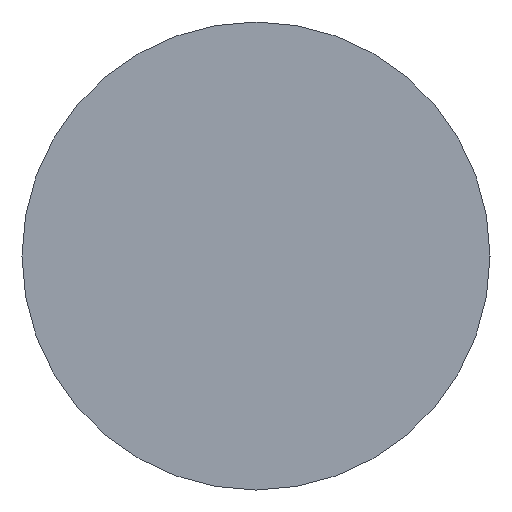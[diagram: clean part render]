
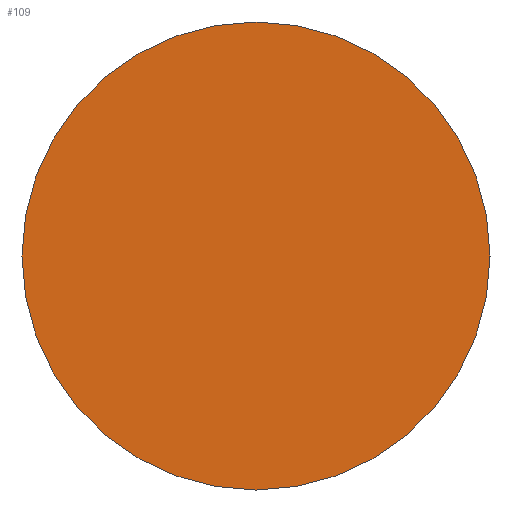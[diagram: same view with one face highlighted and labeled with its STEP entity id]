
A CAD part, left-side view. The second image highlights one B-rep face of the part: STEP entity #109.
In plain terms, the highlighted planar face has unit normal (-1, 0, 0).
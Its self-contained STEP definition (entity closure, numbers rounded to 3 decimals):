
#31 = CYLINDRICAL_SURFACE('',#32,1.2);
#32 = AXIS2_PLACEMENT_3D('',#33,#34,#35);
#33 = CARTESIAN_POINT('',(17.,23.4,-11.25));
#34 = DIRECTION('',(1.,0.,0.));
#35 = DIRECTION('',(-0.,0.,1.));
#56 = VERTEX_POINT('',#57);
#57 = CARTESIAN_POINT('',(17.,23.4,-10.05));
#78 = EDGE_CURVE('',#56,#56,#79,.T.);
#79 = SURFACE_CURVE('',#80,(#85,#92),.PCURVE_S1.);
#80 = CIRCLE('',#81,1.2);
#81 = AXIS2_PLACEMENT_3D('',#82,#83,#84);
#82 = CARTESIAN_POINT('',(17.,23.4,-11.25));
#83 = DIRECTION('',(1.,0.,0.));
#84 = DIRECTION('',(-0.,0.,1.));
#85 = PCURVE('',#31,#86);
#86 = DEFINITIONAL_REPRESENTATION('',(#87),#91);
#87 = LINE('',#88,#89);
#88 = CARTESIAN_POINT('',(0.,0.));
#89 = VECTOR('',#90,1.);
#90 = DIRECTION('',(1.,0.));
#91 = ( GEOMETRIC_REPRESENTATION_CONTEXT(2) 
PARAMETRIC_REPRESENTATION_CONTEXT() REPRESENTATION_CONTEXT('2D SPACE',''
  ) );
#92 = PCURVE('',#93,#98);
#93 = PLANE('',#94);
#94 = AXIS2_PLACEMENT_3D('',#95,#96,#97);
#95 = CARTESIAN_POINT('',(17.,23.4,-11.25));
#96 = DIRECTION('',(1.,0.,0.));
#97 = DIRECTION('',(-0.,0.,1.));
#98 = DEFINITIONAL_REPRESENTATION('',(#99),#103);
#99 = CIRCLE('',#100,1.2);
#100 = AXIS2_PLACEMENT_2D('',#101,#102);
#101 = CARTESIAN_POINT('',(0.,0.));
#102 = DIRECTION('',(1.,0.));
#103 = ( GEOMETRIC_REPRESENTATION_CONTEXT(2) 
PARAMETRIC_REPRESENTATION_CONTEXT() REPRESENTATION_CONTEXT('2D SPACE',''
  ) );
#109 = ADVANCED_FACE('',(#110),#93,.F.);
#110 = FACE_BOUND('',#111,.T.);
#111 = EDGE_LOOP('',(#112));
#112 = ORIENTED_EDGE('',*,*,#78,.F.);
